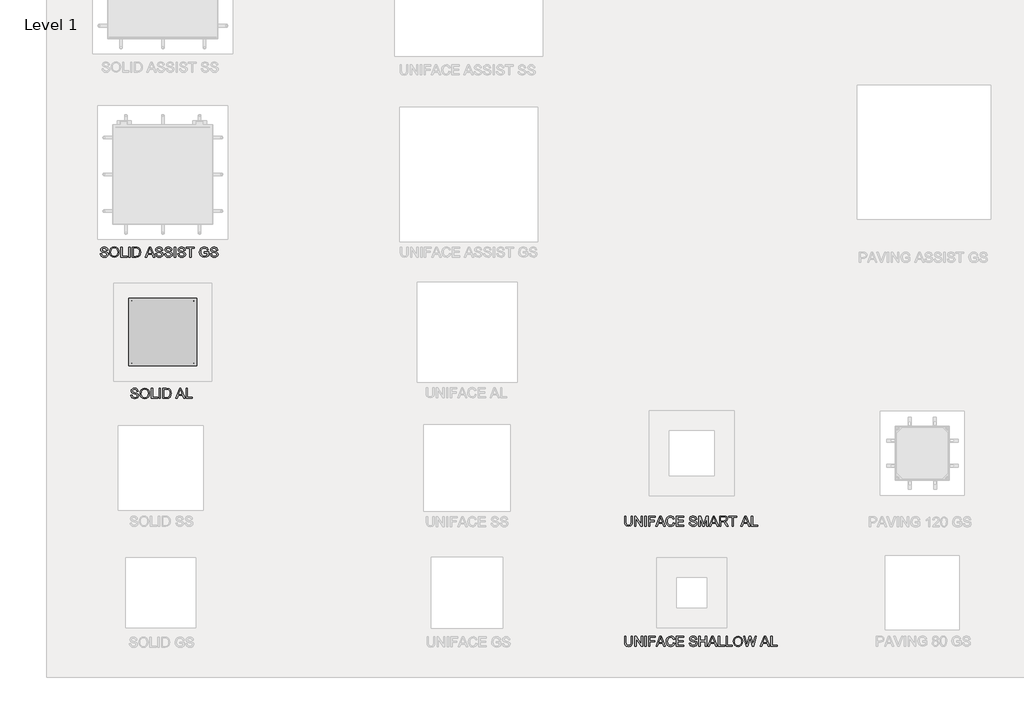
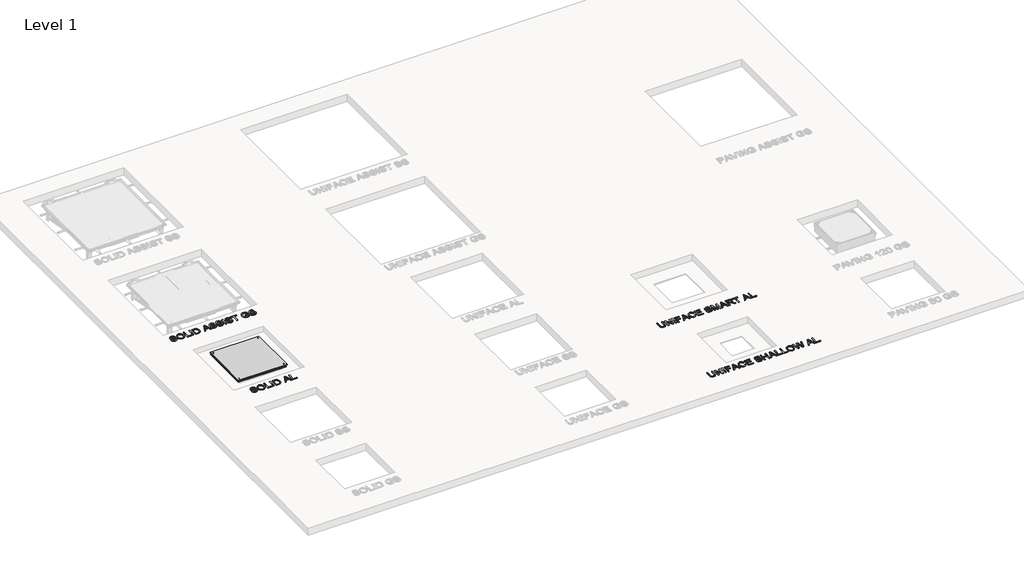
# One storey, part 2 of 4: 5 proxies.
"""IFC4 building model written with IfcOpenShell, lengths in millimetres."""

from ifc_helpers import new_model, si_unit, origin, origin_with_axes, place, context, project, spatial, polyline, outline, extrude, transform, mapped, element, save
from components import aco_access_cover_solid_al_aco_access_cover_solid_600_x_600_7d305e2f

model = new_model("IFC4")

# Units and contexts
model_context = context("Model", 3, world=origin())
ifc_project = project(units=[si_unit("LENGTHUNIT", "METRE", prefix="MILLI")], contexts=[model_context])

# Site, building, storey
site = spatial("IfcSite", under=ifc_project)
building = spatial("IfcBuilding", under=site)
storey = spatial("IfcBuildingStorey", under=building, Name="Level 1", Elevation=0.0)

# Proxies
placement = place(None, origin())
element("IfcBuildingElementProxy", 1, Name="100mm ACO", ObjectType="100mm ACO", at=placement, inside=storey, context=model_context, shape_type="SweptSolid", body=[
    extrude(outline(polyline([(6583.1323033, -4033.508884), (6582.293183, -4047.7883979), (6577.8371644, -4061.2721942), (6566.0894792, -4072.8173331), (6544.4170255, -4077.4324951), (6523.0917941, -4073.3381664), (6511.2139005, -4062.7478886), (6506.3961922, -4049.2206895), (6505.3545255, -4033.508884), (6505.3545255, -3975.5806433), (6518.3174885, -3975.5806433), (6518.3174885, -4033.8561062), (6519.6051042, -4049.524509), (6526.3904052, -4061.2143238), (6533.3854862, -4065.0446189), (6543.3753589, -4066.321384), (6560.808808, -4062.2559905), (6568.4042941, -4051.3908284), (6570.1693404, -4033.8561062), (6570.1693404, -3975.5806433), (6583.1323033, -3975.5806433), (6583.1323033, -4033.508884)])), origin_with_axes(), (0.0, 0.0, 1.0), 10.0),
    extrude(outline(polyline([(6683.1323033, -4075.5806433), (6669.2434144, -4075.5806433), (6618.5779052, -3997.3399025), (6618.5779052, -4075.5806433), (6605.3545255, -4075.5806433), (6605.3545255, -3975.5806433), (6619.2723496, -3975.5806433), (6669.9089237, -4053.7635136), (6669.9089237, -3975.5806433), (6683.1323033, -3975.5806433), (6683.1323033, -4075.5806433)])), origin_with_axes(), (0.0, 0.0, 1.0), 10.0),
    extrude(outline(polyline([(6720.1693404, -4075.5806433), (6707.2063774, -4075.5806433), (6707.2063774, -3975.5806433), (6720.1693404, -3975.5806433), (6720.1693404, -4075.5806433)])), origin_with_axes(), (0.0, 0.0, 1.0), 10.0),
    extrude(outline(polyline([(6810.9100811, -3986.6917544), (6757.2063774, -3986.6917544), (6757.2063774, -4018.1732358), (6803.5026737, -4018.1732358), (6803.5026737, -4029.284347), (6757.2063774, -4029.284347), (6757.2063774, -4075.5806433), (6744.2434144, -4075.5806433), (6744.2434144, -3975.5806433), (6810.9100811, -3975.5806433), (6810.9100811, -3986.6917544)])), origin_with_axes(), (0.0, 0.0, 1.0), 10.0),
    extrude(outline(polyline([(6911.3730441, -4075.5806433), (6897.5709607, -4075.5806433), (6885.5917941, -4045.9510136), (6843.1438774, -4045.9510136), (6831.6276737, -4075.5806433), (6817.8545255, -4075.5806433), (6856.7144792, -3975.5806433), (6870.89272, -3975.5806433), (6911.3730441, -4075.5806433)]), holes=[polyline([(6881.0779052, -4034.8399025), (6866.6537154, -3998.1790229), (6863.6878589, -3986.5181433), (6859.0292941, -4005.0945321), (6847.4841552, -4034.8399025), (6881.0779052, -4034.8399025)])]), origin_with_axes(), (0.0, 0.0, 1.0), 10.0),
    extrude(outline(polyline([(7005.3545255, -4043.7519395), (6999.4408971, -4058.5776051), (6990.3226968, -4069.0846942), (6978.5352258, -4075.3455449), (6964.6137848, -4077.4324951), (6943.7081135, -4073.5768817), (6929.3707292, -4062.0100414), (6921.0807987, -4045.0178539), (6918.3174885, -4024.8861988), (6921.5618461, -4003.4994801), (6931.2949191, -3987.3138608), (6946.1278184, -3977.1250588), (6964.6716552, -3973.7287914), (6977.9854573, -3975.5408574), (6989.2231598, -3980.9770553), (6997.8928647, -3989.9071768), (7003.5026737, -4002.2010136), (6990.5397107, -4005.2102729), (6980.6872802, -3989.9469627), (6964.179757, -3984.8399025), (6949.9581135, -3987.5489592), (6939.64272, -3995.6761294), (6933.3710186, -4008.3605912), (6931.2804515, -4024.7415229), (6933.4939931, -4043.1045148), (6940.1346181, -4056.0638608), (6950.3342709, -4063.7570032), (6963.2248959, -4066.321384), (6973.7934723, -4064.7046305), (6982.1774422, -4059.8543701), (6988.3768056, -4051.7561352), (6992.3915626, -4040.3954581), (7005.3545255, -4043.7519395)])), origin_with_axes(), (0.0, 0.0, 1.0), 10.0),
    extrude(outline(polyline([(7096.0952663, -4075.5806433), (7022.0211922, -4075.5806433), (7022.0211922, -3975.5806433), (7094.2434144, -3975.5806433), (7094.2434144, -3986.6917544), (7034.9841552, -3986.6917544), (7034.9841552, -4018.1732358), (7090.5397107, -4018.1732358), (7090.5397107, -4029.284347), (7034.9841552, -4029.284347), (7034.9841552, -4064.4695321), (7096.0952663, -4064.4695321), (7096.0952663, -4075.5806433)])), origin_with_axes(), (0.0, 0.0, 1.0), 10.0),
    extrude(outline(polyline([(7210.9100811, -4005.2102729), (7208.8990857, -3996.3163203), (7204.4285996, -3989.9469627), (7188.1091552, -3984.8399025), (7172.4841552, -3988.8184905), (7167.9702663, -3993.7049199), (7166.4656367, -4000.4070321), (7170.9361228, -4010.462009), (7189.1218867, -4016.7554118), (7208.9569561, -4022.2386294), (7222.1079978, -4031.165134), (7226.2095603, -4038.2470206), (7227.5767478, -4047.3977729), (7225.0702373, -4059.2358805), (7217.5507061, -4068.8821479), (7206.0019503, -4075.2949083), (7191.4077663, -4077.4324951), (7173.4245487, -4075.0598099), (7160.6207292, -4067.9417544), (7152.8082292, -4057.0476571), (7149.79897, -4043.346847), (7162.761933, -4042.2473099), (7165.3914179, -4053.1233227), (7171.601632, -4060.5777497), (7180.4377142, -4064.8854754), (7190.9448033, -4066.321384), (7208.074433, -4061.5904812), (7212.9789468, -4056.0168412), (7214.6137848, -4048.7577266), (7212.9246934, -4041.4298909), (7207.8574191, -4036.4024025), (7184.5790626, -4028.9515923), (7170.3682698, -4024.6113145), (7160.7798728, -4018.737472), (7155.3219735, -4011.1094338), (7153.5026737, -4001.5065692), (7155.7849364, -3990.5111988), (7162.6317246, -3981.5991618), (7173.413698, -3975.696384), (7187.5015163, -3973.7287914), (7202.0631482, -3975.7108516), (7213.4563774, -3981.6570321), (7220.965058, -3991.249046), (7223.8730441, -4004.1686062), (7210.9100811, -4005.2102729)])), origin_with_axes(), (0.0, 0.0, 1.0), 10.0),
    extrude(outline(polyline([(7338.6878589, -4075.5806433), (7325.7248959, -4075.5806433), (7325.7248959, -3991.784347), (7300.2040626, -4075.5806433), (7286.4309144, -4075.5806433), (7259.4343867, -3990.4243933), (7259.0582292, -4075.5806433), (7246.0952663, -4075.5806433), (7246.0952663, -3975.5806433), (7265.8001274, -3975.5806433), (7288.6299885, -4046.4429118), (7293.0570718, -4061.2577266), (7298.0628589, -4045.227634), (7319.4170255, -3975.5806433), (7338.6878589, -3975.5806433), (7338.6878589, -4075.5806433)])), origin_with_axes(), (0.0, 0.0, 1.0), 10.0),
    extrude(outline(polyline([(7442.8545255, -4075.5806433), (7429.0524422, -4075.5806433), (7417.0732755, -4045.9510136), (7374.6253589, -4045.9510136), (7363.1091552, -4075.5806433), (7349.336007, -4075.5806433), (7388.1959607, -3975.5806433), (7402.3742015, -3975.5806433), (7442.8545255, -4075.5806433)]), holes=[polyline([(7412.5593867, -4034.8399025), (7398.1351968, -3998.1790229), (7395.1693404, -3986.5181433), (7390.5107755, -4005.0945321), (7378.9656367, -4034.8399025), (7412.5593867, -4034.8399025)])]), origin_with_axes(), (0.0, 0.0, 1.0), 10.0),
    extrude(outline(polyline([(7541.0026737, -4075.5806433), (7526.0142478, -4075.5806433), (7507.2497802, -4045.7195321), (7499.480683, -4036.5904812), (7491.7549885, -4032.0765923), (7482.1774422, -4031.1361988), (7466.4656367, -4031.1361988), (7466.4656367, -4075.5806433), (7453.5026737, -4075.5806433), (7453.5026737, -3975.5806433), (7497.6288311, -3975.5806433), (7512.8053357, -3976.7235831), (7523.5402894, -3981.5268238), (7530.6438774, -3990.7571479), (7533.1323033, -4002.4903655), (7531.3166205, -4012.5417254), (7525.8695718, -4020.4157127), (7517.0009376, -4025.9604176), (7504.9204978, -4029.0239303), (7514.5776158, -4036.5109095), (7523.6415626, -4048.1790229), (7541.0026737, -4075.5806433)]), holes=[polyline([(7466.4656367, -4020.0250877), (7495.2272107, -4020.0250877), (7509.0148265, -4018.5493933), (7517.1311459, -4012.805759), (7520.1693404, -4003.2137451), (7515.1201505, -3991.5094627), (7508.4325059, -3987.8961814), (7498.4679515, -3986.6917544), (7466.4656367, -3986.6917544), (7466.4656367, -4020.0250877)])]), origin_with_axes(), (0.0, 0.0, 1.0), 10.0),
    extrude(outline(polyline([(7623.8730441, -3986.6917544), (7590.5397107, -3986.6917544), (7590.5397107, -4075.5806433), (7577.5767478, -4075.5806433), (7577.5767478, -3986.6917544), (7544.2434144, -3986.6917544), (7544.2434144, -3975.5806433), (7623.8730441, -3975.5806433), (7623.8730441, -3986.6917544)])), origin_with_axes(), (0.0, 0.0, 1.0), 10.0),
    extrude(outline(polyline([(7759.5211922, -4075.5806433), (7745.7191089, -4075.5806433), (7733.7399422, -4045.9510136), (7691.2920255, -4045.9510136), (7679.7758218, -4075.5806433), (7666.0026737, -4075.5806433), (7704.8626274, -3975.5806433), (7719.0408681, -3975.5806433), (7759.5211922, -4075.5806433)]), holes=[polyline([(7729.2260533, -4034.8399025), (7714.8018635, -3998.1790229), (7711.836007, -3986.5181433), (7707.1774422, -4005.0945321), (7695.6323033, -4034.8399025), (7729.2260533, -4034.8399025)])]), origin_with_axes(), (0.0, 0.0, 1.0), 10.0),
    extrude(outline(polyline([(7833.1323033, -4075.5806433), (7770.1693404, -4075.5806433), (7770.1693404, -3975.5806433), (7783.1323033, -3975.5806433), (7783.1323033, -4064.4695321), (7833.1323033, -4064.4695321), (7833.1323033, -4075.5806433)])), origin_with_axes(), (0.0, 0.0, 1.0), 10.0),
])
element("IfcBuildingElementProxy", 2, Name="100mm ACO", ObjectType="100mm ACO", at=placement, inside=storey, context=model_context, shape_type="SweptSolid", body=[
    extrude(outline(polyline([(6584.2858426, -5232.6802328), (6583.4467222, -5246.9597467), (6578.9907037, -5260.443543), (6567.2430185, -5271.9886819), (6545.5705648, -5276.6038439), (6524.2453333, -5272.5095152), (6512.3674398, -5261.9192375), (6507.5497315, -5248.3920384), (6506.5080648, -5232.6802328), (6506.5080648, -5174.7519921), (6519.4710278, -5174.7519921), (6519.4710278, -5233.0274551), (6520.7586435, -5248.6958578), (6527.5439444, -5260.3856727), (6534.5390254, -5264.2159678), (6544.5288981, -5265.4927328), (6561.9623472, -5261.4273393), (6569.5578333, -5250.5621773), (6571.3228796, -5233.0274551), (6571.3228796, -5174.7519921), (6584.2858426, -5174.7519921), (6584.2858426, -5232.6802328)])), origin_with_axes(), (0.0, 0.0, 1.0), 10.0),
    extrude(outline(polyline([(6684.2858426, -5274.7519921), (6670.3969537, -5274.7519921), (6619.7314444, -5196.5112514), (6619.7314444, -5274.7519921), (6606.5080648, -5274.7519921), (6606.5080648, -5174.7519921), (6620.4258889, -5174.7519921), (6671.0624629, -5252.9348625), (6671.0624629, -5174.7519921), (6684.2858426, -5174.7519921), (6684.2858426, -5274.7519921)])), origin_with_axes(), (0.0, 0.0, 1.0), 10.0),
    extrude(outline(polyline([(6721.3228796, -5274.7519921), (6708.3599166, -5274.7519921), (6708.3599166, -5174.7519921), (6721.3228796, -5174.7519921), (6721.3228796, -5274.7519921)])), origin_with_axes(), (0.0, 0.0, 1.0), 10.0),
    extrude(outline(polyline([(6812.0636204, -5185.8631032), (6758.3599166, -5185.8631032), (6758.3599166, -5217.3445847), (6804.6562129, -5217.3445847), (6804.6562129, -5228.4556958), (6758.3599166, -5228.4556958), (6758.3599166, -5274.7519921), (6745.3969537, -5274.7519921), (6745.3969537, -5174.7519921), (6812.0636204, -5174.7519921), (6812.0636204, -5185.8631032)])), origin_with_axes(), (0.0, 0.0, 1.0), 10.0),
    extrude(outline(polyline([(6912.5265833, -5274.7519921), (6898.7245, -5274.7519921), (6886.7453333, -5245.1223625), (6844.2974166, -5245.1223625), (6832.7812129, -5274.7519921), (6819.0080648, -5274.7519921), (6857.8680185, -5174.7519921), (6872.0462592, -5174.7519921), (6912.5265833, -5274.7519921)]), holes=[polyline([(6882.2314444, -5234.0112514), (6867.8072546, -5197.3503717), (6864.8413981, -5185.6894921), (6860.1828333, -5204.265881), (6848.6376944, -5234.0112514), (6882.2314444, -5234.0112514)])]), origin_with_axes(), (0.0, 0.0, 1.0), 10.0),
    extrude(outline(polyline([(7006.5080648, -5242.9232884), (7000.5944363, -5257.7489539), (6991.4762361, -5268.256043), (6979.688765, -5274.5168937), (6965.7673241, -5276.6038439), (6944.8616528, -5272.7482305), (6930.5242685, -5261.1813902), (6922.2343379, -5244.1892027), (6919.4710278, -5224.0575477), (6922.7153854, -5202.6708289), (6932.4484583, -5186.4852097), (6947.2813576, -5176.2964076), (6965.8251944, -5172.9001402), (6979.1389965, -5174.7122062), (6990.3766991, -5180.1484041), (6999.0464039, -5189.0785257), (7004.6562129, -5201.3723625), (6991.69325, -5204.3816217), (6981.8408194, -5189.1183115), (6965.3332963, -5184.0112514), (6951.1116528, -5186.7203081), (6940.7962592, -5194.8474782), (6934.5245579, -5207.53194), (6932.4339907, -5223.9128717), (6934.6475324, -5242.2758636), (6941.2881574, -5255.2352097), (6951.4878102, -5262.9283521), (6964.3784352, -5265.4927328), (6974.9470116, -5263.8759794), (6983.3309815, -5259.0257189), (6989.5303449, -5250.927484), (6993.5451018, -5239.5668069), (7006.5080648, -5242.9232884)])), origin_with_axes(), (0.0, 0.0, 1.0), 10.0),
    extrude(outline(polyline([(7097.2488055, -5274.7519921), (7023.1747315, -5274.7519921), (7023.1747315, -5174.7519921), (7095.3969537, -5174.7519921), (7095.3969537, -5185.8631032), (7036.1376944, -5185.8631032), (7036.1376944, -5217.3445847), (7091.69325, -5217.3445847), (7091.69325, -5228.4556958), (7036.1376944, -5228.4556958), (7036.1376944, -5263.640881), (7097.2488055, -5263.640881), (7097.2488055, -5274.7519921)])), origin_with_axes(), (0.0, 0.0, 1.0), 10.0),
    extrude(outline(polyline([(7212.0636204, -5204.3816217), (7210.052625, -5195.4876692), (7205.5821389, -5189.1183115), (7189.2626944, -5184.0112514), (7173.6376944, -5187.9898393), (7169.1238055, -5192.8762687), (7167.6191759, -5199.578381), (7172.089662, -5209.6333578), (7190.2754259, -5215.9267606), (7210.1104954, -5221.4099782), (7223.261537, -5230.3364828), (7227.3630995, -5237.4183694), (7228.730287, -5246.5691217), (7226.2237766, -5258.4072294), (7218.7042454, -5268.0534967), (7207.1554896, -5274.4662571), (7192.5613055, -5276.6038439), (7174.5780879, -5274.2311588), (7161.7742685, -5267.1131032), (7153.9617685, -5256.219006), (7150.9525092, -5242.5181958), (7163.9154722, -5241.4186588), (7166.5449572, -5252.2946715), (7172.7551713, -5259.7490986), (7181.5912535, -5264.0568243), (7192.0983426, -5265.4927328), (7209.2279722, -5260.7618301), (7214.1324861, -5255.18819), (7215.7673241, -5247.9290754), (7214.0782326, -5240.6012398), (7209.0109583, -5235.5737514), (7185.7326018, -5228.1229412), (7171.521809, -5223.7826634), (7161.933412, -5217.9088208), (7156.4755127, -5210.2807826), (7154.6562129, -5200.677918), (7156.9384757, -5189.6825477), (7163.7852639, -5180.7705106), (7174.5672372, -5174.8677328), (7188.6550555, -5172.9001402), (7203.2166875, -5174.8822004), (7214.6099166, -5180.828381), (7222.1185972, -5190.4203949), (7225.0265833, -5203.3399551), (7212.0636204, -5204.3816217)])), origin_with_axes(), (0.0, 0.0, 1.0), 10.0),
    extrude(outline(polyline([(7325.0265833, -5274.7519921), (7312.0636204, -5274.7519921), (7312.0636204, -5226.6038439), (7260.2117685, -5226.6038439), (7260.2117685, -5274.7519921), (7247.2488055, -5274.7519921), (7247.2488055, -5174.7519921), (7260.2117685, -5174.7519921), (7260.2117685, -5215.4927328), (7312.0636204, -5215.4927328), (7312.0636204, -5174.7519921), (7325.0265833, -5174.7519921), (7325.0265833, -5274.7519921)])), origin_with_axes(), (0.0, 0.0, 1.0), 10.0),
    extrude(outline(polyline([(7429.19325, -5274.7519921), (7415.3911666, -5274.7519921), (7403.412, -5245.1223625), (7360.9640833, -5245.1223625), (7349.4478796, -5274.7519921), (7335.6747315, -5274.7519921), (7374.5346852, -5174.7519921), (7388.7129259, -5174.7519921), (7429.19325, -5274.7519921)]), holes=[polyline([(7398.8981111, -5234.0112514), (7384.4739213, -5197.3503717), (7381.5080648, -5185.6894921), (7376.8495, -5204.265881), (7365.3043611, -5234.0112514), (7398.8981111, -5234.0112514)])]), origin_with_axes(), (0.0, 0.0, 1.0), 10.0),
    extrude(outline(polyline([(7502.8043611, -5274.7519921), (7439.8413981, -5274.7519921), (7439.8413981, -5174.7519921), (7452.8043611, -5174.7519921), (7452.8043611, -5263.640881), (7502.8043611, -5263.640881), (7502.8043611, -5274.7519921)])), origin_with_axes(), (0.0, 0.0, 1.0), 10.0),
    extrude(outline(polyline([(7580.5821389, -5274.7519921), (7517.6191759, -5274.7519921), (7517.6191759, -5174.7519921), (7530.5821389, -5174.7519921), (7530.5821389, -5263.640881), (7580.5821389, -5263.640881), (7580.5821389, -5274.7519921)])), origin_with_axes(), (0.0, 0.0, 1.0), 10.0),
    extrude(outline(polyline([(7638.0763518, -5172.9001402), (7656.5659352, -5176.4736356), (7671.3518148, -5187.1941217), (7681.0523356, -5203.766749), (7684.2858426, -5224.896668), (7681.0342511, -5245.9361646), (7671.2794768, -5262.4111356), (7656.4755127, -5273.0556669), (7638.0763518, -5276.6038439), (7619.2033773, -5272.9254585), (7604.4247315, -5261.8903023), (7594.8761204, -5245.5600071), (7591.69325, -5225.9962051), (7594.9195231, -5203.9150419), (7604.5983426, -5187.0928486), (7619.4203912, -5176.4483173), (7638.0763518, -5172.9001402)]), holes=[polyline([(7637.9606111, -5265.4927328), (7651.4010046, -5262.8089944), (7662.0346852, -5254.7577791), (7668.9718958, -5241.9250245), (7671.3228796, -5224.896668), (7668.9682789, -5207.4885372), (7661.9044768, -5194.6159967), (7651.2744132, -5186.6624377), (7638.2210278, -5184.0112514), (7624.8746736, -5186.6081842), (7614.1180185, -5194.3989828), (7607.0216643, -5207.5572583), (7604.6562129, -5226.2566217), (7606.9710278, -5242.1384215), (7613.9154722, -5254.656506), (7624.5563866, -5262.7836761), (7637.9606111, -5265.4927328)])]), origin_with_axes(), (0.0, 0.0, 1.0), 10.0),
    extrude(outline(polyline([(7821.3228796, -5174.7519921), (7795.1654722, -5274.7519921), (7779.3089907, -5274.7519921), (7759.4305185, -5195.9036125), (7757.4339907, -5186.7022236), (7754.4247315, -5198.5656495), (7733.4756574, -5274.7519921), (7719.5867685, -5274.7519921), (7693.5451018, -5174.7519921), (7706.855287, -5174.7519921), (7721.9883889, -5240.4348625), (7725.8078333, -5259.4163439), (7730.4663981, -5242.2577791), (7749.3321389, -5174.7519921), (7765.6805185, -5174.7519921), (7779.3668611, -5225.359631), (7786.8032037, -5260.8631032), (7791.9247315, -5239.0749088), (7807.9548241, -5174.7519921), (7821.3228796, -5174.7519921)])), origin_with_axes(), (0.0, 0.0, 1.0), 10.0),
    extrude(outline(polyline([(7953.2673241, -5274.7519921), (7939.4652407, -5274.7519921), (7927.4860741, -5245.1223625), (7885.0381574, -5245.1223625), (7873.5219537, -5274.7519921), (7859.7488055, -5274.7519921), (7898.6087592, -5174.7519921), (7912.787, -5174.7519921), (7953.2673241, -5274.7519921)]), holes=[polyline([(7922.9721852, -5234.0112514), (7908.5479954, -5197.3503717), (7905.5821389, -5185.6894921), (7900.9235741, -5204.265881), (7889.3784352, -5234.0112514), (7922.9721852, -5234.0112514)])]), origin_with_axes(), (0.0, 0.0, 1.0), 10.0),
    extrude(outline(polyline([(8026.8784352, -5274.7519921), (7963.9154722, -5274.7519921), (7963.9154722, -5174.7519921), (7976.8784352, -5174.7519921), (7976.8784352, -5263.640881), (8026.8784352, -5263.640881), (8026.8784352, -5274.7519921)])), origin_with_axes(), (0.0, 0.0, 1.0), 10.0),
])
element("IfcBuildingElementProxy", 3, Name="100mm ACO", ObjectType="100mm ACO", at=placement, inside=storey, context=model_context, shape_type="SweptSolid", body=[
    extrude(outline(polyline([(1638.868685, -2730.3224809), (1636.8576896, -2721.4285284), (1632.3872035, -2715.0591707), (1616.067759, -2709.9521106), (1600.442759, -2713.9306985), (1595.9288701, -2718.8171279), (1594.4242405, -2725.5192402), (1598.8947266, -2735.574217), (1617.0804905, -2741.8676198), (1636.91556, -2747.3508374), (1650.0666016, -2756.277342), (1654.1681641, -2763.3592286), (1655.5353516, -2772.5099809), (1653.0288412, -2784.3480886), (1645.50931, -2793.9943559), (1633.9605542, -2800.4071163), (1619.3663701, -2802.5447032), (1601.3831525, -2800.172018), (1588.5793331, -2793.0539624), (1580.7668331, -2782.1598652), (1577.7575738, -2768.459055), (1590.7205368, -2767.359518), (1593.3500218, -2778.2355307), (1599.5602359, -2785.6899578), (1608.3963181, -2789.9976835), (1618.9034072, -2791.433592), (1636.0330368, -2786.7026893), (1640.9375507, -2781.1290492), (1642.5723887, -2773.8699346), (1640.8832972, -2766.542099), (1635.8160229, -2761.5146106), (1612.5376664, -2754.0638004), (1598.3268736, -2749.7235226), (1588.7384766, -2743.84968), (1583.2805773, -2736.2216418), (1581.4612775, -2726.6187772), (1583.7435403, -2715.6234069), (1590.5903285, -2706.7113698), (1601.3723019, -2700.808592), (1615.4601201, -2698.8409994), (1630.0217521, -2700.8230596), (1641.4149812, -2706.7692402), (1648.9236618, -2716.3612541), (1651.8316479, -2729.2808143), (1638.868685, -2730.3224809)])), origin_with_axes(), (0.0, 0.0, 1.0), 10.0),
    extrude(outline(polyline([(1716.7332683, -2698.8409994), (1735.2228516, -2702.4144948), (1750.0087312, -2713.1349809), (1759.7092521, -2729.7076082), (1762.942759, -2750.8375272), (1759.6911676, -2771.8770238), (1749.9363933, -2788.3519948), (1735.1324292, -2798.9965261), (1716.7332683, -2802.5447032), (1697.8602937, -2798.8663177), (1683.0816479, -2787.8311615), (1673.5330368, -2771.5008663), (1670.3501664, -2751.9370643), (1673.5764396, -2729.8559011), (1683.255259, -2713.0337078), (1698.0773076, -2702.3891765), (1716.7332683, -2698.8409994)]), holes=[polyline([(1716.6175275, -2791.433592), (1730.0579211, -2788.7498536), (1740.6916016, -2780.6986383), (1747.6288123, -2767.8658837), (1749.9797961, -2750.8375272), (1747.6251954, -2733.4293964), (1740.5613933, -2720.5568559), (1729.9313296, -2712.6032969), (1716.8779442, -2709.9521106), (1703.53159, -2712.5490434), (1692.774935, -2720.339842), (1685.6785808, -2733.4981175), (1683.3131294, -2752.1974809), (1685.6279442, -2768.0792807), (1692.5723887, -2780.5973652), (1703.213303, -2788.7245353), (1716.6175275, -2791.433592)])]), origin_with_axes(), (0.0, 0.0, 1.0), 10.0),
    extrude(outline(polyline([(1844.4242405, -2800.6928513), (1781.4612775, -2800.6928513), (1781.4612775, -2700.6928513), (1794.4242405, -2700.6928513), (1794.4242405, -2789.5817402), (1844.4242405, -2789.5817402), (1844.4242405, -2800.6928513)])), origin_with_axes(), (0.0, 0.0, 1.0), 10.0),
    extrude(outline(polyline([(1874.0538701, -2800.6928513), (1861.0909072, -2800.6928513), (1861.0909072, -2700.6928513), (1874.0538701, -2700.6928513), (1874.0538701, -2800.6928513)])), origin_with_axes(), (0.0, 0.0, 1.0), 10.0),
    extrude(outline(polyline([(1898.1279442, -2700.6928513), (1932.155722, -2700.6928513), (1947.5492405, -2701.6187772), (1959.8756294, -2706.1181985), (1970.1620877, -2715.9706291), (1977.0920646, -2730.3948189), (1979.6094257, -2750.1430828), (1977.0197266, -2770.2783548), (1969.2506294, -2786.4712078), (1955.166428, -2797.1374404), (1933.6314164, -2800.6928513), (1898.1279442, -2800.6928513), (1898.1279442, -2700.6928513)]), holes=[polyline([(1911.0909072, -2789.5817402), (1932.4161387, -2789.5817402), (1944.0625507, -2788.7426198), (1954.4647498, -2784.2142633), (1963.1887081, -2772.1193559), (1966.6464627, -2749.8537309), (1965.3154442, -2735.5597494), (1960.4253979, -2723.4503744), (1952.2512081, -2715.4497957), (1943.2523655, -2712.3537309), (1932.0110461, -2711.8039624), (1911.0909072, -2711.8039624), (1911.0909072, -2789.5817402)])]), origin_with_axes(), (0.0, 0.0, 1.0), 10.0),
    extrude(outline(polyline([(2118.9612775, -2800.6928513), (2105.1591942, -2800.6928513), (2093.1800275, -2771.0632217), (2050.7321109, -2771.0632217), (2039.2159072, -2800.6928513), (2025.442759, -2800.6928513), (2064.3027127, -2700.6928513), (2078.4809535, -2700.6928513), (2118.9612775, -2800.6928513)]), holes=[polyline([(2088.6661387, -2759.9521106), (2074.2419488, -2723.2912309), (2071.2760924, -2711.6303513), (2066.6175275, -2730.2067402), (2055.0723887, -2759.9521106), (2088.6661387, -2759.9521106)])]), origin_with_axes(), (0.0, 0.0, 1.0), 10.0),
    extrude(outline(polyline([(2192.5723887, -2800.6928513), (2129.6094257, -2800.6928513), (2129.6094257, -2700.6928513), (2142.5723887, -2700.6928513), (2142.5723887, -2789.5817402), (2192.5723887, -2789.5817402), (2192.5723887, -2800.6928513)])), origin_with_axes(), (0.0, 0.0, 1.0), 10.0),
])
element("IfcBuildingElementProxy", 4, Name="100mm ACO", ObjectType="100mm ACO", at=placement, inside=storey, context=model_context, shape_type="SweptSolid", body=[
    extrude(outline(polyline([(1335.2125961, -1320.3690462), (1333.2016007, -1311.4750936), (1328.7311146, -1305.105736), (1312.4116702, -1299.9986758), (1296.7866702, -1303.9772638), (1292.2727813, -1308.8636932), (1290.7681517, -1315.5658054), (1295.2386378, -1325.6207823), (1313.4244017, -1331.9141851), (1333.2594711, -1337.3974026), (1346.4105128, -1346.3239073), (1350.5120753, -1353.4057939), (1351.8792628, -1362.5565462), (1349.3727524, -1374.3946538), (1341.8532211, -1384.0409212), (1330.3044653, -1390.4536816), (1315.7102813, -1392.5912684), (1297.7270637, -1390.2185832), (1284.9232443, -1383.1005276), (1277.1107443, -1372.2064304), (1274.101485, -1358.5056202), (1287.064448, -1357.4060832), (1289.6939329, -1368.2820959), (1295.904147, -1375.736523), (1304.7402292, -1380.0442487), (1315.2473183, -1381.4801573), (1332.376948, -1376.7492545), (1337.2814619, -1371.1756145), (1338.9162998, -1363.9164999), (1337.2272084, -1356.5886642), (1332.1599341, -1351.5611758), (1308.8815776, -1344.1103656), (1294.6707848, -1339.7700878), (1285.0823878, -1333.8962452), (1279.6244885, -1326.268207), (1277.8051887, -1316.6653425), (1280.0874514, -1305.6699721), (1286.9342396, -1296.7579351), (1297.716213, -1290.8551573), (1311.8040313, -1288.8875647), (1326.3656632, -1290.8696249), (1337.7588924, -1296.8158054), (1345.267573, -1306.4078193), (1348.1755591, -1319.3273795), (1335.2125961, -1320.3690462)])), origin_with_axes(), (0.0, 0.0, 1.0), 10.0),
    extrude(outline(polyline([(1413.0771794, -1288.8875647), (1431.5667628, -1292.4610601), (1446.3526424, -1303.1815462), (1456.0531632, -1319.7541735), (1459.2866702, -1340.8840925), (1456.0350788, -1361.923589), (1446.2803044, -1378.3985601), (1431.4763403, -1389.0430913), (1413.0771794, -1392.5912684), (1394.2042049, -1388.912883), (1379.4255591, -1377.8777267), (1369.876948, -1361.5474316), (1366.6940776, -1341.9836295), (1369.9203507, -1319.9024663), (1379.5991702, -1303.080273), (1394.4212188, -1292.4357418), (1413.0771794, -1288.8875647)]), holes=[polyline([(1412.9614387, -1381.4801573), (1426.4018322, -1378.7964189), (1437.0355128, -1370.7452036), (1443.9727234, -1357.9124489), (1446.3237072, -1340.8840925), (1443.9691065, -1323.4759617), (1436.9053044, -1310.6034212), (1426.2752408, -1302.6498621), (1413.2218554, -1299.9986758), (1399.8755012, -1302.5956087), (1389.1188461, -1310.3864073), (1382.0224919, -1323.5446827), (1379.6570406, -1342.2440462), (1381.9718554, -1358.1258459), (1388.9162998, -1370.6439304), (1399.5572142, -1378.7711006), (1412.9614387, -1381.4801573)])]), origin_with_axes(), (0.0, 0.0, 1.0), 10.0),
    extrude(outline(polyline([(1540.7681517, -1390.7394165), (1477.8051887, -1390.7394165), (1477.8051887, -1290.7394165), (1490.7681517, -1290.7394165), (1490.7681517, -1379.6283054), (1540.7681517, -1379.6283054), (1540.7681517, -1390.7394165)])), origin_with_axes(), (0.0, 0.0, 1.0), 10.0),
    extrude(outline(polyline([(1570.3977813, -1390.7394165), (1557.4348183, -1390.7394165), (1557.4348183, -1290.7394165), (1570.3977813, -1290.7394165), (1570.3977813, -1390.7394165)])), origin_with_axes(), (0.0, 0.0, 1.0), 10.0),
    extrude(outline(polyline([(1594.4718554, -1290.7394165), (1628.4996332, -1290.7394165), (1643.8931517, -1291.6653425), (1656.2195406, -1296.1647638), (1666.5059989, -1306.0171943), (1673.4359757, -1320.4413841), (1675.9533369, -1340.189648), (1673.3636378, -1360.32492), (1665.5945406, -1376.517773), (1651.5103392, -1387.1840057), (1629.9753276, -1390.7394165), (1594.4718554, -1390.7394165), (1594.4718554, -1290.7394165)]), holes=[polyline([(1607.4348183, -1379.6283054), (1628.7600498, -1379.6283054), (1640.4064619, -1378.7891851), (1650.8086609, -1374.2608286), (1659.5326193, -1362.1659212), (1662.9903739, -1339.9002962), (1661.6593554, -1325.6063147), (1656.7693091, -1313.4969397), (1648.5951193, -1305.496361), (1639.5962767, -1302.4002962), (1628.3549572, -1301.8505276), (1607.4348183, -1301.8505276), (1607.4348183, -1379.6283054)])]), origin_with_axes(), (0.0, 0.0, 1.0), 10.0),
    extrude(outline(polyline([(1815.3051887, -1390.7394165), (1801.5031054, -1390.7394165), (1789.5239387, -1361.1097869), (1747.076022, -1361.1097869), (1735.5598183, -1390.7394165), (1721.7866702, -1390.7394165), (1760.6466239, -1290.7394165), (1774.8248646, -1290.7394165), (1815.3051887, -1390.7394165)]), holes=[polyline([(1785.0100498, -1349.9986758), (1770.58586, -1313.3377962), (1767.6200035, -1301.6769165), (1762.9614387, -1320.2533054), (1751.4162998, -1349.9986758), (1785.0100498, -1349.9986758)])]), origin_with_axes(), (0.0, 0.0, 1.0), 10.0),
    extrude(outline(polyline([(1883.3607443, -1320.3690462), (1881.3497489, -1311.4750936), (1876.8792628, -1305.105736), (1860.5598183, -1299.9986758), (1844.9348183, -1303.9772638), (1840.4209294, -1308.8636932), (1838.9162998, -1315.5658054), (1843.3867859, -1325.6207823), (1861.5725498, -1331.9141851), (1881.4076193, -1337.3974026), (1894.5586609, -1346.3239073), (1898.6602234, -1353.4057939), (1900.0274109, -1362.5565462), (1897.5209005, -1374.3946538), (1890.0013693, -1384.0409212), (1878.4526135, -1390.4536816), (1863.8584294, -1392.5912684), (1845.8752119, -1390.2185832), (1833.0713924, -1383.1005276), (1825.2588924, -1372.2064304), (1822.2496332, -1358.5056202), (1835.2125961, -1357.4060832), (1837.8420811, -1368.2820959), (1844.0522952, -1375.736523), (1852.8883774, -1380.0442487), (1863.3954665, -1381.4801573), (1880.5250961, -1376.7492545), (1885.42961, -1371.1756145), (1887.064448, -1363.9164999), (1885.3753565, -1356.5886642), (1880.3080822, -1351.5611758), (1857.0297257, -1344.1103656), (1842.8189329, -1339.7700878), (1833.2305359, -1333.8962452), (1827.7726366, -1326.268207), (1825.9533369, -1316.6653425), (1828.2355996, -1305.6699721), (1835.0823878, -1296.7579351), (1845.8643612, -1290.8551573), (1859.9521794, -1288.8875647), (1874.5138114, -1290.8696249), (1885.9070406, -1296.8158054), (1893.4157211, -1306.4078193), (1896.3237072, -1319.3273795), (1883.3607443, -1320.3690462)])), origin_with_axes(), (0.0, 0.0, 1.0), 10.0),
    extrude(outline(polyline([(1975.9533369, -1320.3690462), (1973.9423415, -1311.4750936), (1969.4718554, -1305.105736), (1953.1524109, -1299.9986758), (1937.5274109, -1303.9772638), (1933.013522, -1308.8636932), (1931.5088924, -1315.5658054), (1935.9793785, -1325.6207823), (1954.1651424, -1331.9141851), (1974.0002119, -1337.3974026), (1987.1512535, -1346.3239073), (1991.252816, -1353.4057939), (1992.6200035, -1362.5565462), (1990.1134931, -1374.3946538), (1982.5939619, -1384.0409212), (1971.0452061, -1390.4536816), (1956.451022, -1392.5912684), (1938.4678044, -1390.2185832), (1925.663985, -1383.1005276), (1917.851485, -1372.2064304), (1914.8422257, -1358.5056202), (1927.8051887, -1357.4060832), (1930.4346737, -1368.2820959), (1936.6448878, -1375.736523), (1945.48097, -1380.0442487), (1955.9880591, -1381.4801573), (1973.1176887, -1376.7492545), (1978.0222026, -1371.1756145), (1979.6570406, -1363.9164999), (1977.9679491, -1356.5886642), (1972.9006748, -1351.5611758), (1949.6223183, -1344.1103656), (1935.4115255, -1339.7700878), (1925.8231285, -1333.8962452), (1920.3652292, -1326.268207), (1918.5459294, -1316.6653425), (1920.8281922, -1305.6699721), (1927.6749804, -1296.7579351), (1938.4569538, -1290.8551573), (1952.544772, -1288.8875647), (1967.106404, -1290.8696249), (1978.4996332, -1296.8158054), (1986.0083137, -1306.4078193), (1988.9162998, -1319.3273795), (1975.9533369, -1320.3690462)])), origin_with_axes(), (0.0, 0.0, 1.0), 10.0),
    extrude(outline(polyline([(2025.9533369, -1390.7394165), (2012.9903739, -1390.7394165), (2012.9903739, -1290.7394165), (2025.9533369, -1290.7394165), (2025.9533369, -1390.7394165)])), origin_with_axes(), (0.0, 0.0, 1.0), 10.0),
    extrude(outline(polyline([(2107.4348183, -1320.3690462), (2105.423823, -1311.4750936), (2100.9533369, -1305.105736), (2084.6338924, -1299.9986758), (2069.0088924, -1303.9772638), (2064.4950035, -1308.8636932), (2062.9903739, -1315.5658054), (2067.46086, -1325.6207823), (2085.6466239, -1331.9141851), (2105.4816933, -1337.3974026), (2118.632735, -1346.3239073), (2122.7342975, -1353.4057939), (2124.101485, -1362.5565462), (2121.5949746, -1374.3946538), (2114.0754433, -1384.0409212), (2102.5266876, -1390.4536816), (2087.9325035, -1392.5912684), (2069.9492859, -1390.2185832), (2057.1454665, -1383.1005276), (2049.3329665, -1372.2064304), (2046.3237072, -1358.5056202), (2059.2866702, -1357.4060832), (2061.9161551, -1368.2820959), (2068.1263693, -1375.736523), (2076.9624514, -1380.0442487), (2087.4695406, -1381.4801573), (2104.5991702, -1376.7492545), (2109.5036841, -1371.1756145), (2111.138522, -1363.9164999), (2109.4494306, -1356.5886642), (2104.3821563, -1351.5611758), (2081.1037998, -1344.1103656), (2066.893007, -1339.7700878), (2057.30461, -1333.8962452), (2051.8467107, -1326.268207), (2050.0274109, -1316.6653425), (2052.3096737, -1305.6699721), (2059.1564619, -1296.7579351), (2069.9384352, -1290.8551573), (2084.0262535, -1288.8875647), (2098.5878855, -1290.8696249), (2109.9811146, -1296.8158054), (2117.4897952, -1306.4078193), (2120.3977813, -1319.3273795), (2107.4348183, -1320.3690462)])), origin_with_axes(), (0.0, 0.0, 1.0), 10.0),
    extrude(outline(polyline([(2212.9903739, -1301.8505276), (2179.6570406, -1301.8505276), (2179.6570406, -1390.7394165), (2166.6940776, -1390.7394165), (2166.6940776, -1301.8505276), (2133.3607443, -1301.8505276), (2133.3607443, -1290.7394165), (2212.9903739, -1290.7394165), (2212.9903739, -1301.8505276)])), origin_with_axes(), (0.0, 0.0, 1.0), 10.0),
    extrude(outline(polyline([(2353.7311146, -1377.4002962), (2334.3228392, -1388.7935253), (2313.1929202, -1392.5912684), (2292.8116991, -1389.0756434), (2276.8069248, -1378.5287684), (2266.4445116, -1362.1514536), (2262.9903739, -1341.1445091), (2268.6182674, -1314.6398795), (2275.5807963, -1303.7530161), (2285.2125961, -1295.6294628), (2297.4015429, -1290.5730392), (2312.0355128, -1288.8875647), (2326.872029, -1290.7611179), (2338.4533369, -1296.3817776), (2346.7866702, -1305.7423101), (2351.8792628, -1318.8354814), (2338.9162998, -1322.220898), (2335.1583426, -1312.5167603), (2329.2664156, -1305.5686989), (2321.2405186, -1301.3911816), (2311.0806517, -1299.9986758), (2295.8209584, -1302.8053888), (2284.8219711, -1311.2255276), (2278.1704954, -1324.1884906), (2275.9533369, -1340.6236758), (2280.3370174, -1363.236523), (2293.3433832, -1376.8649952), (2312.0933832, -1381.4801573), (2326.9588345, -1378.6734443), (2340.7681517, -1370.2533054), (2340.7681517, -1349.9986758), (2311.138522, -1349.9986758), (2311.138522, -1338.8875647), (2353.7311146, -1338.8875647), (2353.7311146, -1377.4002962)])), origin_with_axes(), (0.0, 0.0, 1.0), 10.0),
    extrude(outline(polyline([(2431.5088924, -1320.3690462), (2429.497897, -1311.4750936), (2425.0274109, -1305.105736), (2408.7079665, -1299.9986758), (2393.0829665, -1303.9772638), (2388.5690776, -1308.8636932), (2387.064448, -1315.5658054), (2391.5349341, -1325.6207823), (2409.720698, -1331.9141851), (2429.5557674, -1337.3974026), (2442.7068091, -1346.3239073), (2446.8083716, -1353.4057939), (2448.1755591, -1362.5565462), (2445.6690487, -1374.3946538), (2438.1495174, -1384.0409212), (2426.6007616, -1390.4536816), (2412.0065776, -1392.5912684), (2394.02336, -1390.2185832), (2381.2195406, -1383.1005276), (2373.4070406, -1372.2064304), (2370.3977813, -1358.5056202), (2383.3607443, -1357.4060832), (2385.9902292, -1368.2820959), (2392.2004433, -1375.736523), (2401.0365255, -1380.0442487), (2411.5436146, -1381.4801573), (2428.6732443, -1376.7492545), (2433.5777582, -1371.1756145), (2435.2125961, -1363.9164999), (2433.5235047, -1356.5886642), (2428.4562304, -1351.5611758), (2405.1778739, -1344.1103656), (2390.9670811, -1339.7700878), (2381.3786841, -1333.8962452), (2375.9207848, -1326.268207), (2374.101485, -1316.6653425), (2376.3837477, -1305.6699721), (2383.2305359, -1296.7579351), (2394.0125093, -1290.8551573), (2408.1003276, -1288.8875647), (2422.6619595, -1290.8696249), (2434.0551887, -1296.8158054), (2441.5638693, -1306.4078193), (2444.4718554, -1319.3273795), (2431.5088924, -1320.3690462)])), origin_with_axes(), (0.0, 0.0, 1.0), 10.0),
])
aco_access_cover_solid_al_aco_access_cover_solid_600_x_600_shape = aco_access_cover_solid_al_aco_access_cover_solid_600_x_600_7d305e2f(model_context)
element("IfcBuildingElementProxy", 5, Name="ACO Access Cover SOLID AL : ACO Access Cover SOLID 600 x 600 A15 AL", ObjectType="ACO Access Cover SOLID AL : ACO Access Cover SOLID 600 x 600 A15 AL", at=placement, inside=storey, context=model_context, shape_type="MappedRepresentation", body=[
    mapped(aco_access_cover_solid_al_aco_access_cover_solid_600_x_600_shape, transform((1896.977399, -2137.7040376, 0.0), x_axis=(1.0, 0.0, 0.0), y_axis=(0.0, 1.0, 0.0), z_axis=(0.0, 0.0, 1.0))),
])

save(model, "model.ifc")
